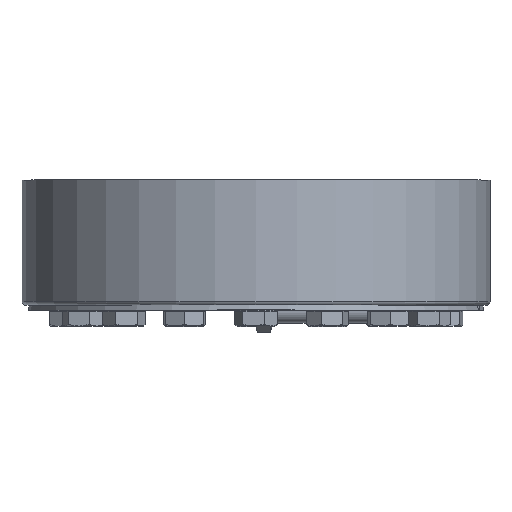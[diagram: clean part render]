
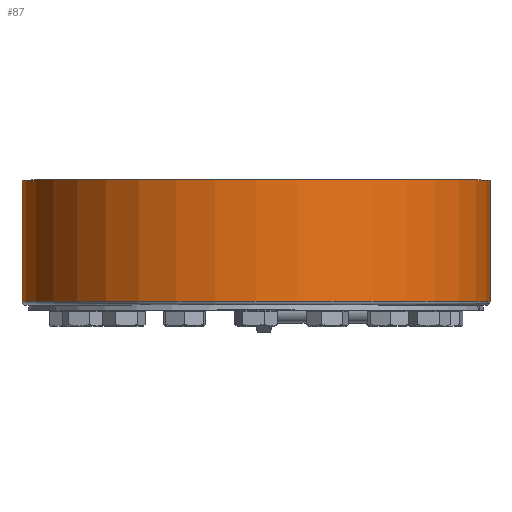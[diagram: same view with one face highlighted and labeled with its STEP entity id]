
A CAD part, top view. The second image highlights one B-rep face of the part: STEP entity #87.
In plain terms, the highlighted cylindrical face has radius 185 mm (diameter 370 mm), a full revolution.
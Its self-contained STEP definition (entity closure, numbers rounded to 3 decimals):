
#87 = ADVANCED_FACE( '', ( #197, #198 ), #199, .T. );
#197 = FACE_OUTER_BOUND( '', #388, .T. );
#198 = FACE_OUTER_BOUND( '', #389, .T. );
#199 = CYLINDRICAL_SURFACE( '', #390, 185. );
#388 = EDGE_LOOP( '', ( #639 ) );
#389 = EDGE_LOOP( '', ( #640 ) );
#390 = AXIS2_PLACEMENT_3D( '', #641, #642, #643 );
#639 = ORIENTED_EDGE( '', *, *, #932, .T. );
#640 = ORIENTED_EDGE( '', *, *, #933, .T. );
#641 = CARTESIAN_POINT( '', ( 0., -60., 0. ) );
#642 = DIRECTION( '', ( 0., 1., 0. ) );
#643 = DIRECTION( '', ( 0., 0., -1. ) );
#932 = EDGE_CURVE( '', #1108, #1108, #1109, .F. );
#933 = EDGE_CURVE( '', #1110, #1110, #1111, .T. );
#1108 = VERTEX_POINT( '', #1458 );
#1109 = CIRCLE( '', #1459, 185. );
#1110 = VERTEX_POINT( '', #1460 );
#1111 = CIRCLE( '', #1461, 185. );
#1458 = CARTESIAN_POINT( '', ( 0., 7., -185. ) );
#1459 = AXIS2_PLACEMENT_3D( '', #1658, #1659, #1660 );
#1460 = CARTESIAN_POINT( '', ( 0., 103., -185. ) );
#1461 = AXIS2_PLACEMENT_3D( '', #1661, #1662, #1663 );
#1658 = CARTESIAN_POINT( '', ( 0., 7., 0. ) );
#1659 = DIRECTION( '', ( 0., -1., 0. ) );
#1660 = DIRECTION( '', ( 0., 0., -1. ) );
#1661 = CARTESIAN_POINT( '', ( 0., 103., 0. ) );
#1662 = DIRECTION( '', ( 0., -1., 0. ) );
#1663 = DIRECTION( '', ( 0., 0., -1. ) );
